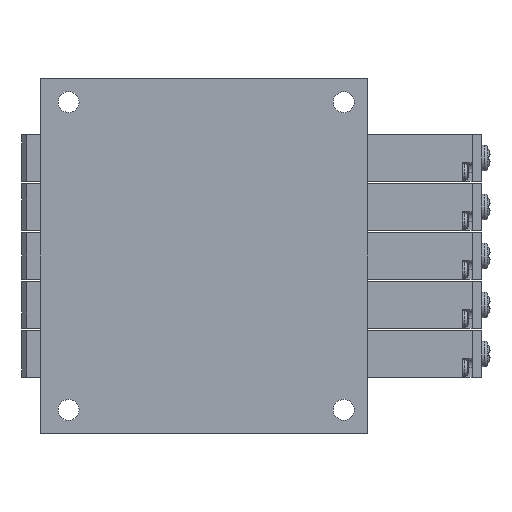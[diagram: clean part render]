
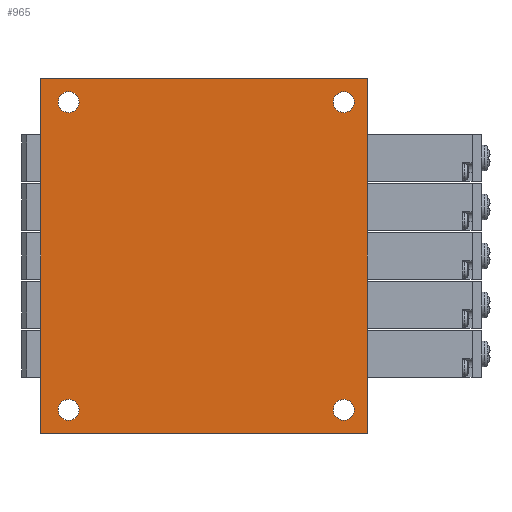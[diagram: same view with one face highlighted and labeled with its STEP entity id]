
A CAD part, front view. The second image highlights one B-rep face of the part: STEP entity #965.
In plain terms, the highlighted planar face has unit normal (0, -1, 0).
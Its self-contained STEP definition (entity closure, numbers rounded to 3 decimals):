
#965=ADVANCED_FACE('',(#1847,#1848,#1849,#1850,#1851),#1852,.F.);
#1847=FACE_OUTER_BOUND('',#2761,.T.);
#1848=FACE_BOUND('',#2762,.T.);
#1849=FACE_BOUND('',#2763,.T.);
#1850=FACE_BOUND('',#2764,.T.);
#1851=FACE_BOUND('',#2765,.T.);
#1852=PLANE('',#2766);
#2761=EDGE_LOOP('',(#5947,#5948,#5949,#5950));
#2762=EDGE_LOOP('',(#5951));
#2763=EDGE_LOOP('',(#5952));
#2764=EDGE_LOOP('',(#5953));
#2765=EDGE_LOOP('',(#5954));
#2766=AXIS2_PLACEMENT_3D('',#5955,#5956,#5957);
#5947=ORIENTED_EDGE('',*,*,#7019,.T.);
#5948=ORIENTED_EDGE('',*,*,#7017,.F.);
#5949=ORIENTED_EDGE('',*,*,#7010,.F.);
#5950=ORIENTED_EDGE('',*,*,#7026,.T.);
#5951=ORIENTED_EDGE('',*,*,#7027,.F.);
#5952=ORIENTED_EDGE('',*,*,#7028,.F.);
#5953=ORIENTED_EDGE('',*,*,#7029,.F.);
#5954=ORIENTED_EDGE('',*,*,#7030,.F.);
#5955=CARTESIAN_POINT('',(0.0,0.0,38.0));
#5956=DIRECTION('',(-0.0,1.0,0.0));
#5957=DIRECTION('',(1.0,0.0,0.0));
#7010=EDGE_CURVE('',#8687,#8689,#8690,.T.);
#7017=EDGE_CURVE('',#8689,#8698,#8702,.T.);
#7019=EDGE_CURVE('',#8705,#8698,#8706,.T.);
#7026=EDGE_CURVE('',#8687,#8705,#8718,.T.);
#7027=EDGE_CURVE('',#8719,#8719,#8720,.T.);
#7028=EDGE_CURVE('',#8721,#8721,#8722,.T.);
#7029=EDGE_CURVE('',#8723,#8723,#8724,.T.);
#7030=EDGE_CURVE('',#8725,#8725,#8726,.T.);
#8687=VERTEX_POINT('',#11464);
#8689=VERTEX_POINT('',#11467);
#8690=LINE('',#11468,#11469);
#8698=VERTEX_POINT('',#11478);
#8702=LINE('',#11484,#11485);
#8705=VERTEX_POINT('',#11489);
#8706=LINE('',#11490,#11491);
#8718=LINE('',#11504,#11505);
#8719=VERTEX_POINT('',#11506);
#8720=CIRCLE('',#11507,2.25);
#8721=VERTEX_POINT('',#11508);
#8722=CIRCLE('',#11509,2.25);
#8723=VERTEX_POINT('',#11510);
#8724=CIRCLE('',#11511,2.25);
#8725=VERTEX_POINT('',#11512);
#8726=CIRCLE('',#11513,2.25);
#11464=CARTESIAN_POINT('',(0.0,0.0,38.0));
#11467=CARTESIAN_POINT('',(70.0,0.0,38.0));
#11468=CARTESIAN_POINT('',(0.0,0.0,38.0));
#11469=VECTOR('',#12844,1.0);
#11478=CARTESIAN_POINT('',(70.0,0.0,-38.0));
#11484=CARTESIAN_POINT('',(70.0,0.0,38.0));
#11485=VECTOR('',#12857,1.0);
#11489=CARTESIAN_POINT('',(0.0,0.0,-38.0));
#11490=CARTESIAN_POINT('',(0.0,0.0,-38.0));
#11491=VECTOR('',#12859,1.0);
#11504=CARTESIAN_POINT('',(0.0,0.0,38.0));
#11505=VECTOR('',#12876,1.0);
#11506=CARTESIAN_POINT('',(6.0,0.0,35.25));
#11507=AXIS2_PLACEMENT_3D('',#12877,#12878,#12879);
#11508=CARTESIAN_POINT('',(65.0,0.0,-30.75));
#11509=AXIS2_PLACEMENT_3D('',#12880,#12881,#12882);
#11510=CARTESIAN_POINT('',(6.0,0.0,-30.75));
#11511=AXIS2_PLACEMENT_3D('',#12883,#12884,#12885);
#11512=CARTESIAN_POINT('',(65.0,0.0,35.25));
#11513=AXIS2_PLACEMENT_3D('',#12886,#12887,#12888);
#12844=DIRECTION('',(1.0,0.0,0.0));
#12857=DIRECTION('',(0.0,0.0,-1.0));
#12859=DIRECTION('',(1.0,0.0,0.0));
#12876=DIRECTION('',(0.0,0.0,-1.0));
#12877=CARTESIAN_POINT('',(6.0,0.0,33.0));
#12878=DIRECTION('',(0.0,-1.0,0.0));
#12879=DIRECTION('',(0.0,0.0,1.0));
#12880=CARTESIAN_POINT('',(65.0,0.0,-33.0));
#12881=DIRECTION('',(0.0,-1.0,0.0));
#12882=DIRECTION('',(0.0,0.0,1.0));
#12883=CARTESIAN_POINT('',(6.0,0.0,-33.0));
#12884=DIRECTION('',(0.0,-1.0,0.0));
#12885=DIRECTION('',(0.0,0.0,1.0));
#12886=CARTESIAN_POINT('',(65.0,0.0,33.0));
#12887=DIRECTION('',(0.0,-1.0,0.0));
#12888=DIRECTION('',(0.0,0.0,1.0));
